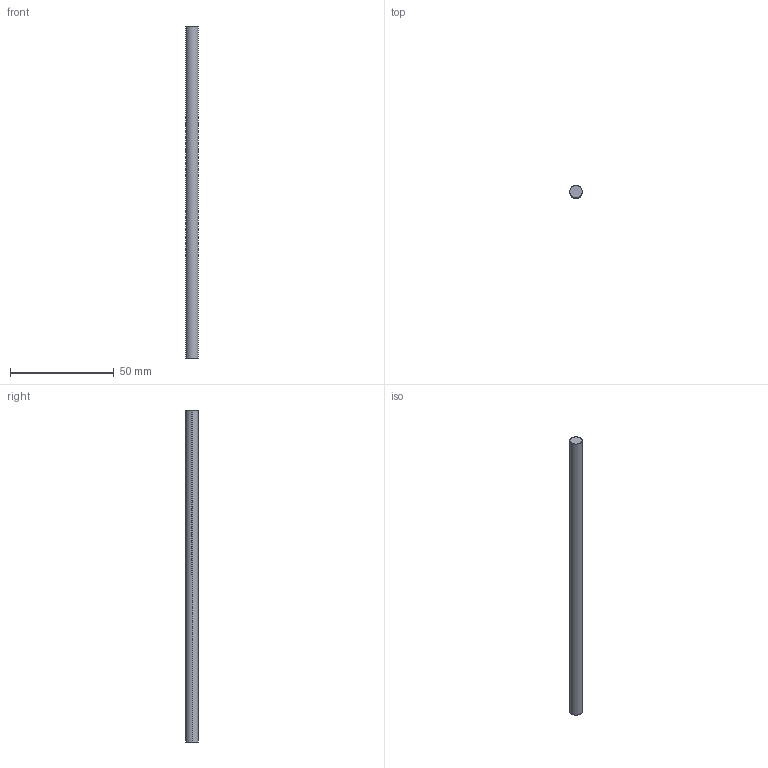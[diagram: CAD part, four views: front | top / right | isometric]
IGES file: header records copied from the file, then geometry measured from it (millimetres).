
Start section: SolidWorks IGES file using analytic representation for surfaces
Global section: file name: C:\Users\cbrechard\Desktop\cc 1474 E\1474.030.00.IGS; native system: SolidWorks 2008; preprocessor: SolidWorks 2008; author: cbrechard; date: 120124.125706; units: millimetre
Bounding box: 6 x 6 x 160 mm (x, y, z)
Surface area: 3072.5 mm2 (no closed solid volume)
Topology: 0 solids, 0 shells, 4 faces, 72 edges, 72 vertices
Faces by surface type: revolution 2, bspline 2
